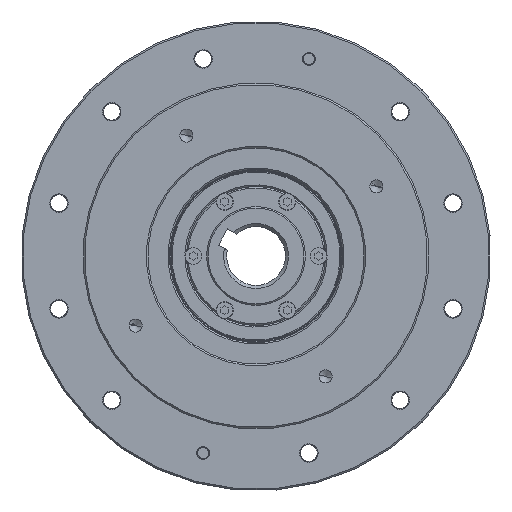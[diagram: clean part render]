
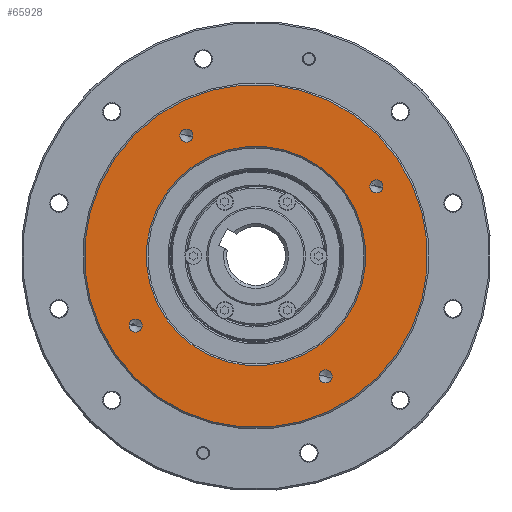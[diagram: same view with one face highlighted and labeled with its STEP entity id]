
A CAD part, left-side view. The second image highlights one B-rep face of the part: STEP entity #65928.
In plain terms, the highlighted planar face has unit normal (-1, 0, 0).
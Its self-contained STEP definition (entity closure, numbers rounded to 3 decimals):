
#432 = DIRECTION ( 'NONE',  ( -1., 0., 0. ) ) ;
#599 = EDGE_CURVE ( 'NONE', #70048, #78868, #10954, .T. ) ;
#1083 = DIRECTION ( 'NONE',  ( 0., 0.966, 0.259 ) ) ;
#1320 = CARTESIAN_POINT ( 'NONE',  ( -12.778, -24.528, -39.515 ) ) ;
#1324 = EDGE_CURVE ( 'NONE', #67438, #39840, #9711, .T. ) ;
#1796 = ORIENTED_EDGE ( 'NONE', *, *, #12450, .T. ) ;
#2771 = DIRECTION ( 'NONE',  ( -1., 0., 0. ) ) ;
#2789 = CARTESIAN_POINT ( 'NONE',  ( -12.778, -53.609, -14.364 ) ) ;
#3376 = DIRECTION ( 'NONE',  ( -1., 0., 0. ) ) ;
#4509 = ORIENTED_EDGE ( 'NONE', *, *, #51192, .F. ) ;
#5253 = VERTEX_POINT ( 'NONE', #60963 ) ;
#6594 = DIRECTION ( 'NONE',  ( 0., 0.966, 0.259 ) ) ;
#7274 = CARTESIAN_POINT ( 'NONE',  ( -12.778, 53.609, 14.364 ) ) ;
#7722 = DIRECTION ( 'NONE',  ( 0., 0.966, 0.259 ) ) ;
#7934 = EDGE_LOOP ( 'NONE', ( #40506, #42031 ) ) ;
#8286 = CARTESIAN_POINT ( 'NONE',  ( -12.778, 36.943, -23.044 ) ) ;
#8580 = DIRECTION ( 'NONE',  ( 0., 0.966, 0.259 ) ) ;
#9360 = ORIENTED_EDGE ( 'NONE', *, *, #1324, .F. ) ;
#9711 = CIRCLE ( 'NONE', #33612, 2.1 ) ;
#10954 = CIRCLE ( 'NONE', #67971, 2.1 ) ;
#11532 = FACE_BOUND ( 'NONE', #17860, .T. ) ;
#11645 = CIRCLE ( 'NONE', #32890, 2.1 ) ;
#11760 = VERTEX_POINT ( 'NONE', #52936 ) ;
#12303 = DIRECTION ( 'NONE',  ( -1., 0., 0. ) ) ;
#12450 = EDGE_CURVE ( 'NONE', #67245, #27582, #39901, .T. ) ;
#13492 = EDGE_CURVE ( 'NONE', #48696, #67644, #21479, .T. ) ;
#14253 = DIRECTION ( 'NONE',  ( -1., 0., 0. ) ) ;
#14415 = DIRECTION ( 'NONE',  ( -1., 0., 0. ) ) ;
#16082 = EDGE_LOOP ( 'NONE', ( #44666, #1796 ) ) ;
#16476 = ORIENTED_EDGE ( 'NONE', *, *, #58933, .T. ) ;
#17405 = CARTESIAN_POINT ( 'NONE',  ( -12.778, 0., 0. ) ) ;
#17860 = EDGE_LOOP ( 'NONE', ( #16476, #51420 ) ) ;
#18591 = AXIS2_PLACEMENT_3D ( 'NONE', #66470, #66868, #28751 ) ;
#20021 = EDGE_CURVE ( 'NONE', #27582, #67245, #53668, .T. ) ;
#20904 = CARTESIAN_POINT ( 'NONE',  ( -12.778, -41., 21.956 ) ) ;
#21479 = CIRCLE ( 'NONE', #33417, 2.1 ) ;
#22570 = ORIENTED_EDGE ( 'NONE', *, *, #38738, .F. ) ;
#23189 = CARTESIAN_POINT ( 'NONE',  ( -12.778, -34.29, -9.188 ) ) ;
#23215 = FACE_BOUND ( 'NONE', #24739, .T. ) ;
#23261 = CARTESIAN_POINT ( 'NONE',  ( -12.778, -20.472, -38.428 ) ) ;
#24739 = EDGE_LOOP ( 'NONE', ( #39568, #46600 ) ) ;
#25135 = VERTEX_POINT ( 'NONE', #23189 ) ;
#27582 = VERTEX_POINT ( 'NONE', #2789 ) ;
#28301 = EDGE_CURVE ( 'NONE', #41900, #11760, #76888, .T. ) ;
#28751 = DIRECTION ( 'NONE',  ( 0., 0.966, 0.259 ) ) ;
#30330 = CIRCLE ( 'NONE', #40893, 2.1 ) ;
#31023 = DIRECTION ( 'NONE',  ( 0., 0.966, 0.259 ) ) ;
#32198 = DIRECTION ( 'NONE',  ( 1., 0., 0. ) ) ;
#32695 = DIRECTION ( 'NONE',  ( 0., 0.966, 0.259 ) ) ;
#32890 = AXIS2_PLACEMENT_3D ( 'NONE', #46730, #2771, #59216 ) ;
#33307 = CARTESIAN_POINT ( 'NONE',  ( -12.778, -36.943, 23.044 ) ) ;
#33417 = AXIS2_PLACEMENT_3D ( 'NONE', #64090, #14253, #39099 ) ;
#33612 = AXIS2_PLACEMENT_3D ( 'NONE', #44892, #45717, #77768 ) ;
#34270 = DIRECTION ( 'NONE',  ( -1., 0., 0. ) ) ;
#34390 = CIRCLE ( 'NONE', #71577, 35.5 ) ;
#34538 = ORIENTED_EDGE ( 'NONE', *, *, #13492, .F. ) ;
#34879 = DIRECTION ( 'NONE',  ( 0., 0.966, 0.259 ) ) ;
#36407 = DIRECTION ( 'NONE',  ( -1., 0., 0. ) ) ;
#38585 = EDGE_CURVE ( 'NONE', #25135, #5253, #58179, .T. ) ;
#38738 = EDGE_CURVE ( 'NONE', #39840, #67438, #30330, .T. ) ;
#39099 = DIRECTION ( 'NONE',  ( 0., 0.966, 0.259 ) ) ;
#39568 = ORIENTED_EDGE ( 'NONE', *, *, #54958, .F. ) ;
#39840 = VERTEX_POINT ( 'NONE', #80327 ) ;
#39901 = CIRCLE ( 'NONE', #58493, 55.5 ) ;
#40506 = ORIENTED_EDGE ( 'NONE', *, *, #599, .F. ) ;
#40853 = EDGE_CURVE ( 'NONE', #78868, #70048, #42388, .T. ) ;
#40893 = AXIS2_PLACEMENT_3D ( 'NONE', #52143, #14415, #8580 ) ;
#41900 = VERTEX_POINT ( 'NONE', #8286 ) ;
#42031 = ORIENTED_EDGE ( 'NONE', *, *, #40853, .F. ) ;
#42388 = CIRCLE ( 'NONE', #18591, 2.1 ) ;
#42868 = AXIS2_PLACEMENT_3D ( 'NONE', #43055, #46348, #32695 ) ;
#43055 = CARTESIAN_POINT ( 'NONE',  ( -12.778, -38.971, 22.5 ) ) ;
#44666 = ORIENTED_EDGE ( 'NONE', *, *, #20021, .T. ) ;
#44892 = CARTESIAN_POINT ( 'NONE',  ( -12.778, 22.5, 38.971 ) ) ;
#45717 = DIRECTION ( 'NONE',  ( -1., 0., 0. ) ) ;
#46348 = DIRECTION ( 'NONE',  ( -1., 0., 0. ) ) ;
#46600 = ORIENTED_EDGE ( 'NONE', *, *, #28301, .F. ) ;
#46730 = CARTESIAN_POINT ( 'NONE',  ( -12.778, 38.971, -22.5 ) ) ;
#48696 = VERTEX_POINT ( 'NONE', #33307 ) ;
#51192 = EDGE_CURVE ( 'NONE', #67644, #48696, #65421, .T. ) ;
#51420 = ORIENTED_EDGE ( 'NONE', *, *, #38585, .T. ) ;
#51653 = AXIS2_PLACEMENT_3D ( 'NONE', #63536, #432, #6594 ) ;
#52143 = CARTESIAN_POINT ( 'NONE',  ( -12.778, 22.5, 38.971 ) ) ;
#52936 = CARTESIAN_POINT ( 'NONE',  ( -12.778, 41., -21.956 ) ) ;
#53668 = CIRCLE ( 'NONE', #56369, 55.5 ) ;
#54958 = EDGE_CURVE ( 'NONE', #11760, #41900, #11645, .T. ) ;
#55952 = FACE_OUTER_BOUND ( 'NONE', #16082, .T. ) ;
#56369 = AXIS2_PLACEMENT_3D ( 'NONE', #60680, #3376, #34879 ) ;
#58179 = CIRCLE ( 'NONE', #79465, 35.5 ) ;
#58493 = AXIS2_PLACEMENT_3D ( 'NONE', #63405, #12303, #31023 ) ;
#58933 = EDGE_CURVE ( 'NONE', #5253, #25135, #34390, .T. ) ;
#59216 = DIRECTION ( 'NONE',  ( 0., 0.966, 0.259 ) ) ;
#60680 = CARTESIAN_POINT ( 'NONE',  ( -12.778, 0., 0. ) ) ;
#60963 = CARTESIAN_POINT ( 'NONE',  ( -12.778, 34.29, 9.188 ) ) ;
#62611 = DIRECTION ( 'NONE',  ( 0., 0.966, 0.259 ) ) ;
#63405 = CARTESIAN_POINT ( 'NONE',  ( -12.778, 0., 0. ) ) ;
#63536 = CARTESIAN_POINT ( 'NONE',  ( -12.778, 38.971, -22.5 ) ) ;
#64090 = CARTESIAN_POINT ( 'NONE',  ( -12.778, -38.971, 22.5 ) ) ;
#65421 = CIRCLE ( 'NONE', #42868, 2.1 ) ;
#65928 = ADVANCED_FACE ( 'NONE', ( #55952, #11532, #74658, #23215, #68837, #67989 ), #74261, .T. ) ;
#66470 = CARTESIAN_POINT ( 'NONE',  ( -12.778, -22.5, -38.971 ) ) ;
#66868 = DIRECTION ( 'NONE',  ( -1., 0., 0. ) ) ;
#67245 = VERTEX_POINT ( 'NONE', #7274 ) ;
#67438 = VERTEX_POINT ( 'NONE', #81947 ) ;
#67644 = VERTEX_POINT ( 'NONE', #20904 ) ;
#67762 = AXIS2_PLACEMENT_3D ( 'NONE', #17405, #36407, #70894 ) ;
#67971 = AXIS2_PLACEMENT_3D ( 'NONE', #72050, #34270, #7722 ) ;
#67989 = FACE_BOUND ( 'NONE', #70035, .T. ) ;
#68837 = FACE_BOUND ( 'NONE', #80028, .T. ) ;
#69664 = CARTESIAN_POINT ( 'NONE',  ( -12.778, 0., 0. ) ) ;
#70035 = EDGE_LOOP ( 'NONE', ( #34538, #4509 ) ) ;
#70048 = VERTEX_POINT ( 'NONE', #23261 ) ;
#70815 = CARTESIAN_POINT ( 'NONE',  ( -12.778, 0., 0. ) ) ;
#70894 = DIRECTION ( 'NONE',  ( 0., 0.966, 0.259 ) ) ;
#71577 = AXIS2_PLACEMENT_3D ( 'NONE', #70815, #32198, #1083 ) ;
#72050 = CARTESIAN_POINT ( 'NONE',  ( -12.778, -22.5, -38.971 ) ) ;
#74261 = PLANE ( 'NONE',  #67762 ) ;
#74658 = FACE_BOUND ( 'NONE', #7934, .T. ) ;
#76888 = CIRCLE ( 'NONE', #51653, 2.1 ) ;
#77768 = DIRECTION ( 'NONE',  ( 0., 0.966, 0.259 ) ) ;
#78868 = VERTEX_POINT ( 'NONE', #1320 ) ;
#79465 = AXIS2_PLACEMENT_3D ( 'NONE', #69664, #81307, #62611 ) ;
#80028 = EDGE_LOOP ( 'NONE', ( #9360, #22570 ) ) ;
#80327 = CARTESIAN_POINT ( 'NONE',  ( -12.778, 20.472, 38.428 ) ) ;
#81307 = DIRECTION ( 'NONE',  ( 1., 0., 0. ) ) ;
#81947 = CARTESIAN_POINT ( 'NONE',  ( -12.778, 24.528, 39.515 ) ) ;
